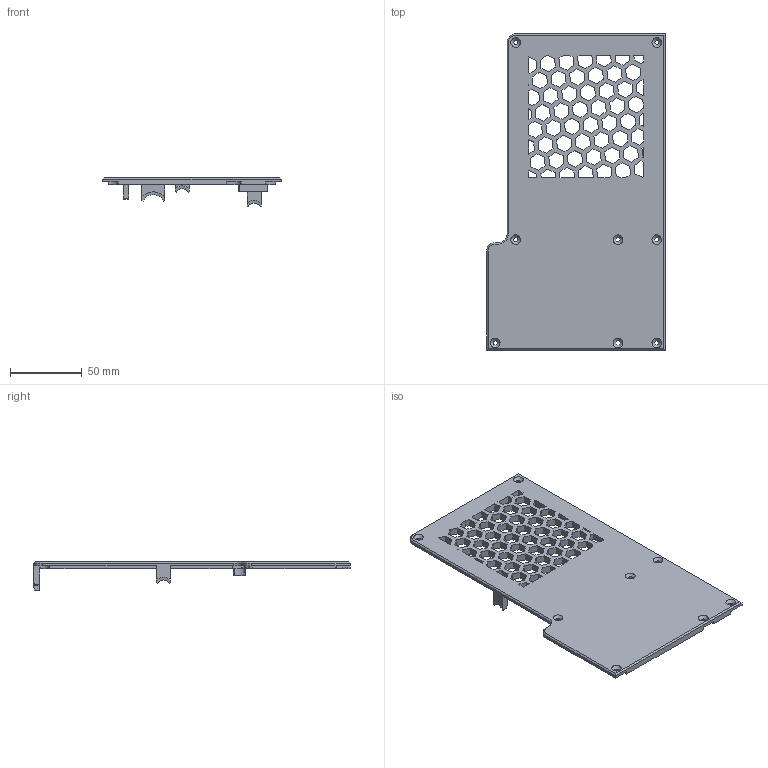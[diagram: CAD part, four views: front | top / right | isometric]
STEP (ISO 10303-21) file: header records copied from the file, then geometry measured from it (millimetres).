
FILE_DESCRIPTION( ( '' ), ' ' );
FILE_NAME( '/vol/tmp/translate-1887015612783351809/5da49cac9762371609e2d488.step', '2019-10-14T16:05:01', ( '' ), ( '' ), ' ', ' ', ' ' );
FILE_SCHEMA( ( 'AUTOMOTIVE_DESIGN { 1 0 10303 214 1 1 1 1 }' ) );
Length unit declared in the file: metre
Products named in the file (1): Part 4
Bounding box: 124.25 x 219.68 x 20.05 mm (x, y, z)
Volume: 100924.4 mm3; surface area: 56289.1 mm2
Topology: 1 solids, 1 shells, 465 faces, 1373 edges, 910 vertices
Faces by surface type: plane 400, cone 31, cylinder 24, bspline 10
Full cylindrical faces by diameter (mm): 3.1 x8
Entity records: 20065 total; most frequent: CARTESIAN_POINT 3884, ORIENTED_EDGE 2698, DIRECTION 2277, EDGE_CURVE 1349, LINE 1179, VECTOR 1179, VERTEX_POINT 902, EDGE_LOOP 609
